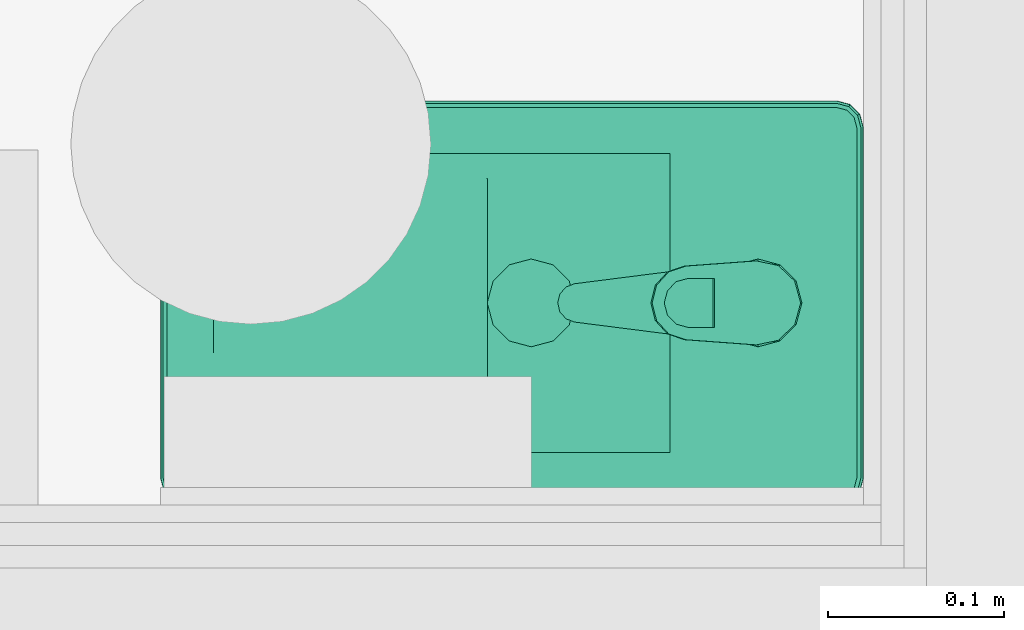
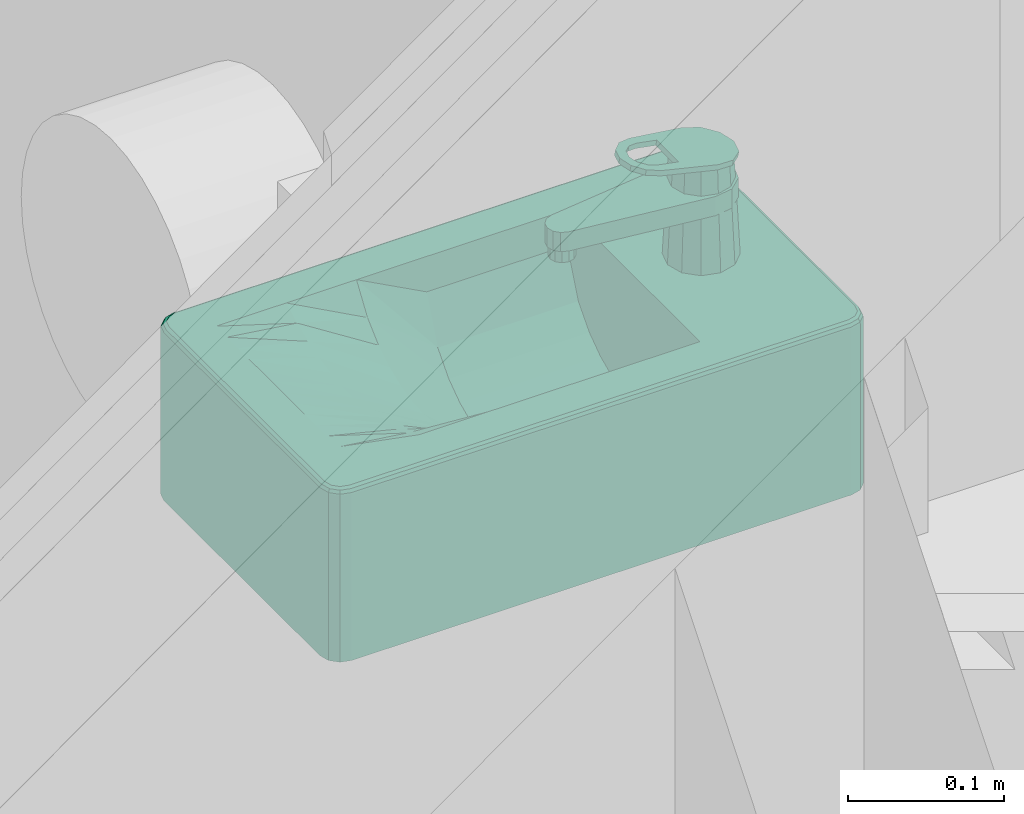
# One storey, part 252 of 301: 1 flow terminal.
"""IFC2X3 building model written with IfcOpenShell, lengths in millimetres."""

from ifc_helpers import new_model, entity, si_unit, converted_unit, derived_unit, money_unit, direction, frame, origin_with_axes, place, context, subcontext, project, spatial, open_shell, faceted_brep, surface_model, source, transform, mapped, type_object, element, save


model = new_model("IFC2X3")

# Units and contexts
model_context = context("Model", 3, precision=0.01, world=origin_with_axes(), true_north=direction((0.0, 1.0)))
body_context = subcontext(model_context, "Body", "Model", "MODEL_VIEW")
ifc_project = project(units=[si_unit("LENGTHUNIT", "METRE", prefix="MILLI"), si_unit("AREAUNIT", "SQUARE_METRE"), si_unit("VOLUMEUNIT", "CUBIC_METRE"), converted_unit("PLANEANGLEUNIT", "DEGREE", entity("IfcPlaneAngleMeasure", 0.0174532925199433), si_unit("PLANEANGLEUNIT", "RADIAN"), dimensions=[0, 0, 0, 0, 0, 0, 0]), money_unit("EUR"), converted_unit("TIMEUNIT", "Year", entity("IfcTimeMeasure", 31557600.0), si_unit("TIMEUNIT", "SECOND"), dimensions=[0, 0, 1, 0, 0, 0, 0]), si_unit("MASSUNIT", "GRAM", prefix="KILO"), si_unit("THERMODYNAMICTEMPERATUREUNIT", "DEGREE_CELSIUS"), si_unit("LUMINOUSINTENSITYUNIT", "LUMEN"), si_unit("ENERGYUNIT", "JOULE", prefix="MEGA"), derived_unit("THERMALCONDUCTANCEUNIT", [(si_unit("POWERUNIT", "WATT"), 1), (si_unit("LENGTHUNIT", "METRE"), -1), (si_unit("THERMODYNAMICTEMPERATUREUNIT", "KELVIN"), -1)]), derived_unit("SPECIFICHEATCAPACITYUNIT", [(si_unit("ENERGYUNIT", "JOULE"), 1), (si_unit("MASSUNIT", "GRAM", prefix="KILO"), -1), (si_unit("THERMODYNAMICTEMPERATUREUNIT", "KELVIN"), -1)]), derived_unit("MASSDENSITYUNIT", [(si_unit("MASSUNIT", "GRAM", prefix="KILO"), 1), (si_unit("VOLUMEUNIT", "CUBIC_METRE"), -1)])], contexts=[model_context])

# Site, building, storey
site_placement = place(None, frame((0.0, 0.0, 8650.0), z_axis=(0.0, 0.0, 1.0), x_axis=(1.0, 0.0, 0.0)))
site = spatial("IfcSite", under=ifc_project, at=site_placement, Name="43301:001:0844", CompositionType="ELEMENT")
building_placement = place(site_placement, origin_with_axes())
building = spatial("IfcBuilding", under=site, at=building_placement, Name="Kuressaare Ametikooli tuulikute mehaanikute õppekorpus", CompositionType="ELEMENT")
storey_placement = place(building_placement, origin_with_axes())
storey = spatial("IfcBuildingStorey", under=building, at=storey_placement, Name="1.korrus", CompositionType="ELEMENT", Elevation=0.0)

# Flow terminal
sanitary_terminal_type = type_object("IfcSanitaryTerminalType", Name="Basin 27", PredefinedType="NOTDEFINED")
shared_shape = source(origin_with_axes(), body_context, "Body", "SurfaceModel", [
    faceted_brep([(100.0, -400.0, 865.0), (-100.0, -400.0, 865.0), (-107.5, -397.9903810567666, 865.0), (-112.9903810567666, -392.5, 865.0), (-115.0, -385.0, 865.0), (-115.0, -14.99999999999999, 865.0), (-112.9903810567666, -7.500000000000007, 865.0), (-107.5, -2.009618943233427, 865.0), (-100.0, 0.0, 865.0), (100.0, 0.0, 865.0), (107.5, -2.009618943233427, 865.0), (112.9903810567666, -7.500000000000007, 865.0), (115.0, -14.99999999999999, 865.0), (115.0, -385.0, 865.0), (112.9903810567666, -392.5, 865.0), (107.5, -397.9903810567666, 865.0), (-85.0, -370.0, 865.0), (85.0, -370.0, 865.0), (85.0, -110.0, 865.0), (-85.0, -110.0, 865.0), (100.0000003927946, -400.0000003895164, 995.0), (-99.99999979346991, -400.0000003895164, 995.0), (-107.5000000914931, -397.9903813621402, 995.0), (-112.9903813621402, -392.5000000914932, 995.0), (-115.0000003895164, -384.99999979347, 995.0), (-115.0000003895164, -14.99999968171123, 995.0), (-112.9903813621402, -7.500000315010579, 995.0), (-107.5000000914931, -2.009619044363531, 995.0), (-99.99999979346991, -1.698735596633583e-08, 995.0), (100.0000003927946, -1.698735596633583e-08, 995.0), (107.4999997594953, -2.009619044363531, 995.0), (112.9903810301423, -7.500000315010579, 995.0), (115.0000000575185, -14.99999968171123, 995.0), (115.0000000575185, -384.99999979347, 995.0), (112.9903810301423, -392.5000000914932, 995.0), (107.4999997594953, -397.9903813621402, 995.0), (-85.0, -370.0, 999.9999996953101), (85.0, -370.0, 999.9999996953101), (85.0, -110.0, 999.9999996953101), (-85.0, -110.0, 999.9999996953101), (99.97757064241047, -399.8296295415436, 996.2940952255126), (-99.97757004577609, -399.8296295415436, 996.2940952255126), (-107.4118096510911, -397.8376310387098, 996.2940952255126), (-112.8376310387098, -392.4118096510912, 996.2940952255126), (-114.8296295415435, -384.9775700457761, 996.2940952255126), (-114.8296295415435, -15.02242943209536, 996.2940952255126), (-112.837631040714, -7.588190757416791, 996.2940952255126), (-107.4118096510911, -2.162369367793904, 996.2940952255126), (-99.97757004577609, -0.1703708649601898, 996.2940952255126), (99.97757064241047, -0.1703708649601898, 996.2940952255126), (107.4118093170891, -2.162369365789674, 996.2940952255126), (112.8376307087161, -7.588190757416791, 996.2940952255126), (114.8296292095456, -15.02242943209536, 996.2940952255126), (114.8296292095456, -384.9775700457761, 996.2940952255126), (112.8376307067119, -392.4118096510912, 996.2940952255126), (107.4118093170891, -397.8376310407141, 996.2940952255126), (-99.34173767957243, -4.999997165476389, 999.9999996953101), (-104.9118111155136, -6.492493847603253, 999.9999996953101), (-108.5075066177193, -10.08818934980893, 999.9999996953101), (-110.0000032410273, -15.65826187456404, 999.9999996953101), (-110.0000032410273, -384.3417376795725, 999.9999996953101), (-108.5075065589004, -389.9118111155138, 999.9999996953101), (-104.9118111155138, -393.5075065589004, 999.9999996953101), (-99.34173767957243, -395.0000032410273, 999.9999996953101), (99.34173819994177, -395.0000032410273, 999.9999996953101), (104.9118107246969, -393.5075066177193, 999.9999996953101), (108.5075062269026, -389.9118111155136, 999.9999996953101), (110.0000029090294, -384.3417376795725, 999.9999996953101), (110.0000029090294, -15.65826187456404, 999.9999996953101), (108.5075062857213, -10.08818934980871, 999.9999996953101), (104.9118107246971, -6.492493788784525, 999.9999996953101), (99.34173819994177, -4.999997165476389, 999.9999996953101), (99.80719978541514, -398.5355345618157, 998.5355339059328), (-99.80719920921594, -398.5355345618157, 998.5355339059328), (-106.7419367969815, -396.6773772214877, 998.5355339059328), (-111.6773772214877, -391.7419367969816, 998.5355339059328), (-113.5355345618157, -384.807199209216, 998.5355339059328), (-113.5355345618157, -15.1928002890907, 998.5355339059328), (-111.6773772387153, -8.258063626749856, 998.5355339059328), (-106.7419367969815, -3.322623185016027, 998.5355339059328), (-99.80719920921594, -1.464465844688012, 998.5355339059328), (99.80719978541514, -1.464465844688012, 998.5355339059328), (106.741936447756, -3.322623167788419, 998.5355339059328), (111.6773769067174, -8.258063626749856, 998.5355339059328), (113.5355342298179, -15.1928002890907, 998.5355339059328), (113.5355342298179, -384.807199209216, 998.5355339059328), (111.6773768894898, -391.7419367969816, 998.5355339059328), (106.741936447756, -396.6773772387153, 998.5355339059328), (-105.5816828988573, -5.332241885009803, 999.8296291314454), (-99.51210824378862, -3.70590425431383, 999.8296291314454), (-109.6677585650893, -9.41831755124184, 999.8296291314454), (-111.2940961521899, -15.48789128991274, 999.8296291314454), (-111.2940961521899, -384.5121082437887, 999.8296291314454), (-109.6677585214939, -390.5816828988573, 999.8296291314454), (-105.5816828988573, -394.667758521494, 999.8296291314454), (-99.51210824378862, -396.2940961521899, 999.8296291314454), (99.5121087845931, -396.2940961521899, 999.8296291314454), (105.581682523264, -394.6677585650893, 999.8296291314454), (109.667758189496, -390.5816828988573, 999.8296291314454), (111.294095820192, -384.5121082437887, 999.8296291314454), (111.294095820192, -15.48789128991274, 999.8296291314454), (109.6677582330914, -9.41831755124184, 999.8296291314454), (105.581682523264, -5.332241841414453, 999.8296291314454), (99.5121087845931, -3.70590425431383, 999.8296291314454)], [[[0, 1, 2, 3, 4, 5, 6, 7, 8, 9, 10, 11, 12, 13, 14, 15], [16, 17, 18, 19]], [[0, 20, 21, 1]], [[1, 21, 22, 2]], [[2, 22, 23, 3]], [[3, 23, 24, 4]], [[4, 24, 25, 5]], [[5, 25, 26, 6]], [[6, 26, 27, 7]], [[7, 27, 28, 8]], [[8, 28, 29, 9]], [[9, 29, 30, 10]], [[10, 30, 31, 11]], [[11, 31, 32, 12]], [[12, 32, 33, 13]], [[13, 33, 34, 14]], [[14, 34, 35, 15]], [[15, 35, 20, 0]], [[36, 37, 17, 16]], [[37, 38, 18, 17]], [[38, 39, 19, 18]], [[39, 36, 16, 19]], [[20, 40, 41, 21]], [[21, 41, 42, 22]], [[22, 42, 43, 23]], [[23, 43, 44, 24]], [[24, 44, 45, 25]], [[25, 45, 46, 26]], [[26, 46, 47, 27]], [[27, 47, 48, 28]], [[28, 48, 49, 29]], [[29, 49, 50, 30]], [[30, 50, 51, 31]], [[31, 51, 52, 32]], [[32, 52, 53, 33]], [[33, 53, 54, 34]], [[34, 54, 55, 35]], [[35, 55, 40, 20]], [[56, 57, 58, 59, 60, 61, 62, 63, 64, 65, 66, 67, 68, 69, 70, 71], [36, 39, 38, 37]], [[40, 72, 73, 41]], [[41, 73, 74, 42]], [[42, 74, 75, 43]], [[43, 75, 76, 44]], [[44, 76, 77, 45]], [[45, 77, 78, 46]], [[46, 78, 79, 47]], [[47, 79, 80, 48]], [[48, 80, 81, 49]], [[49, 81, 82, 50]], [[50, 82, 83, 51]], [[51, 83, 84, 52]], [[52, 84, 85, 53]], [[53, 85, 86, 54]], [[54, 86, 87, 55]], [[55, 87, 72, 40]], [[88, 57, 56, 89]], [[90, 58, 57, 88]], [[91, 59, 58, 90]], [[92, 60, 59, 91]], [[93, 61, 60, 92]], [[94, 62, 61, 93]], [[95, 63, 62, 94]], [[96, 64, 63, 95]], [[97, 65, 64, 96]], [[98, 66, 65, 97]], [[99, 67, 66, 98]], [[100, 68, 67, 99]], [[101, 69, 68, 100]], [[102, 70, 69, 101]], [[103, 71, 70, 102]], [[89, 56, 71, 103]], [[72, 96, 95, 73]], [[73, 95, 94, 74]], [[74, 94, 93, 75]], [[75, 93, 92, 76]], [[76, 92, 91, 77]], [[77, 91, 90, 78]], [[78, 90, 88, 79]], [[79, 88, 89, 80]], [[80, 89, 103, 81]], [[81, 103, 102, 82]], [[82, 102, 101, 83]], [[83, 101, 100, 84]], [[84, 100, 99, 85]], [[85, 99, 98, 86]], [[86, 98, 97, 87]], [[87, 97, 96, 72]]]),
    faceted_brep([(-85.0, -370.0, 865.0), (-85.0, -110.0, 865.0), (85.0, -110.0, 865.0), (85.0, -370.0, 865.0), (12.49999999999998, -210.733635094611, 865.0), (21.65063509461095, -201.583, 865.0), (25.0, -189.083, 865.0), (21.65063509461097, -176.583, 865.0), (12.50000000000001, -167.4323649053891, 865.0), (0.0, -164.083, 865.0), (-12.49999999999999, -167.4323649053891, 865.0), (-21.65063509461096, -176.583, 865.0), (-25.0, -189.083, 865.0), (-21.65063509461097, -201.583, 865.0), (-12.50000000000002, -210.733635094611, 865.0), (0.0, -214.083, 865.0), (-85.0, -266.0, 1000.0), (-85.0, -214.0, 972.25), (-85.0, -162.0, 972.25), (-85.0, -110.0, 972.25), (-85.0, -370.0, 1000.0), (-85.0, -318.0, 1000.0), (42.49999999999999, -110.0, 911.2166184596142), (56.66666666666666, -110.0, 921.2681999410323), (70.83333333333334, -110.0, 937.1336281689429), (85.0, -110.0, 972.2499999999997), (-70.83333333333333, -110.0, 937.133628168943), (-56.66666666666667, -110.0, 921.2681999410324), (-42.5, -110.0, 911.2166184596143), (-28.33333333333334, -110.0, 904.7939613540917), (-14.16666666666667, -110.0, 901.173124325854), (0.0, -110.0, 900.0), (14.16666666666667, -110.0, 901.173124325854), (28.33333333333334, -110.0, 904.7939613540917), (85.0, -214.0, 972.2499999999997), (85.0, -266.0, 999.9999999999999), (85.0, -318.0, 1000.0), (85.0, -370.0, 1000.0), (85.0, -162.0, 972.2499999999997), (-42.5, -370.0, 1000.0), (-56.66666666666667, -370.0, 1000.0), (-70.83333333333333, -370.0, 1000.0), (70.83333333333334, -370.0, 1000.0), (56.66666666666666, -370.0, 1000.0), (42.49999999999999, -370.0, 1000.0), (28.33333333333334, -370.0, 1000.0), (14.16666666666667, -370.0, 1000.0), (0.0, -370.0, 1000.0), (-14.16666666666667, -370.0, 1000.0), (-28.33333333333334, -370.0, 1000.0), (14.16666666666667, -209.0669684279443, 901.173124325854), (21.65063509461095, -201.583, 903.0859405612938), (12.49999999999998, -210.733635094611, 901.0351096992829), (25.0, -189.083, 903.9419997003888), (21.65063509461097, -176.583, 903.0859405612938), (14.16666666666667, -169.0990315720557, 901.173124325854), (12.50000000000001, -167.4323649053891, 901.035109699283), (0.0, -164.083, 900.0), (-12.49999999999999, -167.4323649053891, 901.035109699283), (-14.16666666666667, -169.0990315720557, 901.173124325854), (-21.65063509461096, -176.583, 903.0859405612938), (-25.0, -189.083, 903.9419997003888), (-21.65063509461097, -201.583, 903.0859405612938), (-14.16666666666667, -209.0669684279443, 901.173124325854), (-12.50000000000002, -210.733635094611, 901.035109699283), (-0.02107381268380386, -214.0773532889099, 900.0716455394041), (0.0, -214.083, 900.0751753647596), (-0.3097602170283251, -214.0, 900.0256508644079), (0.3097602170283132, -214.0, 900.0256508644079), (-70.83333333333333, -214.0, 937.133628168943), (-70.83333333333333, -162.0, 937.133628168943), (-70.83333333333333, -318.0, 992.8049756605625), (-70.83333333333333, -266.0, 978.92400992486), (56.66666666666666, -162.0, 921.2681999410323), (42.49999999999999, -162.0, 911.2166184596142), (70.83333333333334, -162.0, 937.1336281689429), (-56.66666666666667, -162.0, 921.2681999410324), (-42.5, -162.0, 911.2166184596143), (-28.33333333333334, -162.0, 904.7939613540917), (-14.16666666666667, -162.0, 901.173124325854), (0.0, -162.0, 900.0), (14.16666666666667, -162.0, 901.173124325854), (28.33333333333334, -162.0, 904.7939613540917), (70.83333333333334, -266.0, 978.92400992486), (70.83333333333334, -318.0, 992.8049756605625), (70.83333333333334, -214.0, 937.1336281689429), (-42.5, -318.0, 982.8921917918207), (-56.66666666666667, -318.0, 987.1546857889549), (56.66666666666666, -318.0, 987.1546857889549), (42.49999999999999, -318.0, 982.8921917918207), (28.33333333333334, -318.0, 979.9130117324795), (14.16666666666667, -318.0, 978.1503189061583), (0.0, -318.0, 977.5667630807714), (-14.16666666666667, -318.0, 978.1503189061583), (-28.33333333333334, -318.0, 979.9130117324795), (14.16666666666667, -214.0, 901.173124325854), (28.33333333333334, -214.0, 904.7939613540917), (-28.33333333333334, -214.0, 904.7939613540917), (-14.16666666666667, -214.0, 901.173124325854), (-14.16666666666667, -266.0, 948.1630206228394), (0.0, -266.0, 947.0978188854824), (-56.66666666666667, -214.0, 921.2681999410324), (56.66666666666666, -214.0, 921.2681999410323), (42.49999999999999, -214.0, 911.2166184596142), (-42.5, -214.0, 911.2166184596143), (14.16666666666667, -266.0, 948.1630206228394), (-28.33333333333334, -266.0, 951.4339022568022), (-56.66666666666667, -266.0, 965.9137620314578), (42.49999999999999, -266.0, 957.1657026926), (56.66666666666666, -266.0, 965.9137620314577), (-42.5, -266.0, 957.1657026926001), (28.33333333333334, -266.0, 951.4339022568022)], [[[0, 1, 2, 3], [4, 5, 6, 7, 8, 9, 10, 11, 12, 13, 14, 15]], [[16, 17, 18, 19, 1, 0, 20, 21]], [[22, 23, 24, 25, 2, 1, 19, 26, 27, 28, 29, 30, 31, 32, 33]], [[34, 35, 36, 37, 3, 2, 25, 38]], [[39, 40, 41, 20, 0, 3, 37, 42, 43, 44, 45, 46, 47, 48, 49]], [[50, 51, 5, 4, 52]], [[51, 53, 6, 5]], [[53, 54, 7, 6]], [[54, 55, 56, 8, 7]], [[56, 57, 9, 8]], [[57, 58, 10, 9]], [[58, 59, 60, 11, 10]], [[60, 61, 12, 11]], [[61, 62, 13, 12]], [[63, 64, 14, 13, 62]], [[65, 66, 15, 14, 64, 67]], [[68, 52, 4, 15, 66]], [[16, 69, 17]], [[69, 70, 18, 17]], [[70, 26, 19, 18]], [[20, 71, 21]], [[21, 72, 16]], [[73, 23, 22, 74]], [[75, 24, 23, 73]], [[38, 25, 24, 75]], [[76, 27, 26, 70]], [[77, 28, 27, 76]], [[78, 29, 28, 77]], [[79, 30, 29, 78]], [[80, 31, 30, 79]], [[81, 32, 31, 80]], [[82, 33, 32, 81]], [[74, 22, 33, 82]], [[83, 35, 34]], [[84, 36, 35]], [[42, 37, 36]], [[34, 38, 75, 85]], [[40, 39, 86]], [[41, 40, 87]], [[20, 41, 71]], [[43, 42, 84]], [[44, 43, 88]], [[45, 44, 89]], [[46, 45, 90]], [[47, 46, 91]], [[48, 47, 92]], [[49, 48, 93]], [[39, 49, 94]], [[55, 54, 53, 51, 50, 95, 96, 82, 81]], [[52, 68, 95, 50]], [[56, 55, 81, 80, 57]], [[58, 57, 80, 79, 59]], [[60, 59, 79, 78, 97, 98, 63, 62, 61]], [[64, 63, 98, 67]], [[66, 65, 99, 100]], [[65, 67, 98, 99]], [[68, 66, 100, 95]], [[16, 72, 69]], [[101, 76, 70, 69]], [[21, 71, 72]], [[102, 73, 74, 103]], [[85, 75, 73, 102]], [[104, 77, 76, 101]], [[97, 78, 77, 104]], [[103, 74, 82, 96]], [[84, 35, 83]], [[83, 34, 85]], [[42, 36, 84]], [[39, 94, 86]], [[40, 86, 87]], [[41, 87, 71]], [[43, 84, 88]], [[44, 88, 89]], [[45, 89, 90]], [[46, 90, 91]], [[47, 91, 92]], [[48, 92, 93]], [[49, 93, 94]], [[105, 96, 95]], [[106, 98, 97]], [[93, 100, 99]], [[106, 99, 98]], [[100, 105, 95]], [[72, 101, 69]], [[71, 107, 72]], [[108, 102, 103]], [[109, 85, 102]], [[107, 104, 101]], [[110, 97, 104]], [[111, 103, 96]], [[88, 84, 83]], [[109, 83, 85]], [[86, 94, 106]], [[87, 86, 110]], [[71, 87, 107]], [[89, 88, 109]], [[90, 89, 108]], [[91, 90, 111]], [[92, 91, 105]], [[93, 92, 100]], [[94, 93, 99]], [[105, 111, 96]], [[110, 106, 97]], [[94, 99, 106]], [[92, 105, 100]], [[72, 107, 101]], [[108, 109, 102]], [[111, 108, 103]], [[107, 110, 104]], [[88, 83, 109]], [[86, 106, 110]], [[87, 110, 107]], [[89, 109, 108]], [[90, 108, 111]], [[91, 111, 105]]]),
    faceted_brep([(21.65063509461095, -201.583, 900.0), (12.49999999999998, -210.733635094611, 900.0), (0.0, -214.083, 900.0), (-12.50000000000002, -210.733635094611, 900.0), (-21.65063509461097, -201.583, 900.0), (-25.0, -189.083, 900.0), (-21.65063509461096, -176.583, 900.0), (-12.49999999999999, -167.4323649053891, 900.0), (0.0, -164.083, 900.0), (12.50000000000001, -167.4323649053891, 900.0), (21.65063509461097, -176.583, 900.0), (25.0, -189.083, 900.0), (21.65063509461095, -201.583, 905.0), (12.49999999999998, -210.733635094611, 905.0), (0.0, -214.083, 905.0), (-12.50000000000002, -210.733635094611, 905.0), (-21.65063509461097, -201.583, 905.0), (-25.0, -189.083, 905.0), (-21.65063509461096, -176.583, 905.0), (-12.49999999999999, -167.4323649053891, 905.0), (0.0, -164.083, 905.0), (12.50000000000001, -167.4323649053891, 905.0), (21.65063509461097, -176.583, 905.0), (25.0, -189.083, 905.0)], [[[0, 1, 2, 3, 4, 5, 6, 7, 8, 9, 10, 11]], [[1, 0, 12, 13]], [[2, 1, 13, 14]], [[3, 2, 14, 15]], [[4, 3, 15, 16]], [[5, 4, 16, 17]], [[6, 5, 17, 18]], [[7, 6, 18, 19]], [[8, 7, 19, 20]], [[9, 8, 20, 21]], [[10, 9, 21, 22]], [[11, 10, 22, 23]], [[0, 11, 23, 12]], [[12, 23, 22, 21, 20, 19, 18, 17, 16, 15, 14, 13]]]),
    surface_model("IfcShellBasedSurfaceModel", [(0.0, -189.083, 907.0), (0.0, -176.46109443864, 906.4975737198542), (-6.310952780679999, -178.1521091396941, 906.4975737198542), (6.310952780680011, -178.1521091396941, 906.4975737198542), (0.0, -164.083, 905.0), (-12.5, -167.4323649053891, 905.0), (-10.93089086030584, -182.77204721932, 906.4975737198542), (10.93089086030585, -182.77204721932, 906.4975737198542), (12.50000000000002, -167.4323649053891, 905.0), (-21.65063509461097, -176.583, 905.0), (-12.62190556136, -189.083, 906.4975737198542), (12.62190556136, -189.083, 906.4975737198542), (21.65063509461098, -176.583, 905.0), (-25.0, -189.083, 905.0), (-10.93089086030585, -195.39395278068, 906.4975737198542), (10.93089086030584, -195.39395278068, 906.4975737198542), (25.0, -189.083, 905.0), (-21.65063509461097, -201.583, 905.0), (-6.310952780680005, -200.0138908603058, 906.4975737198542), (6.310952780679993, -200.0138908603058, 906.4975737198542), (21.65063509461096, -201.583, 905.0), (-12.50000000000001, -210.733635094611, 905.0), (0.0, -201.70490556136, 906.4975737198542), (12.49999999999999, -210.733635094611, 905.0), (0.0, -214.083, 905.0)], [open_shell([[[0, 1, 2]], [[0, 3, 1]], [[2, 1, 4, 5]], [[0, 2, 6]], [[0, 7, 3]], [[1, 3, 8, 4]], [[6, 2, 5, 9]], [[0, 6, 10]], [[0, 11, 7]], [[3, 7, 12, 8]], [[10, 6, 9, 13]], [[0, 10, 14]], [[0, 15, 11]], [[7, 11, 16, 12]], [[14, 10, 13, 17]], [[0, 14, 18]], [[0, 19, 15]], [[11, 15, 20, 16]], [[18, 14, 17, 21]], [[0, 18, 22]], [[0, 22, 19]], [[15, 19, 23, 20]], [[22, 18, 21, 24]], [[19, 22, 24, 23]]])]),
    faceted_brep([(12.50000000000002, -38.34936490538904, 1000.0), (0.0, -34.99999999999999, 1000.0), (0.0, -38.79807692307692, 1075.961538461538), (10.587322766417, -41.66221905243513, 1076.507089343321), (21.65063509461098, -47.50000000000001, 1000.0), (25.0, -60.00000000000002, 1000.0), (21.65063509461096, -72.50000000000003, 1000.0), (12.49999999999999, -81.65063509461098, 1000.0), (0.0, -84.99999999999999, 1000.0), (-12.50000000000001, -81.65063509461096, 1000.0), (-21.65063509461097, -72.5, 1000.0), (-25.0, -59.99999999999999, 1000.0), (-21.65063509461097, -47.49999999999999, 1000.0), (-12.5, -38.34936490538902, 1000.0), (-10.58732276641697, -41.66221905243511, 1076.507089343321), (-18.27355038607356, -49.44976076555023, 1077.99043062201), (-21.0, -59.99999999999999, 1080.0), (-18.10034137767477, -70.45023696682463, 1081.990521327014), (-10.41410590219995, -78.0377605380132, 1083.435763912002), (0.0, -80.80188679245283, 1083.962264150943), (10.41410590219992, -78.03776053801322, 1083.435763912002), (18.10034137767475, -70.45023696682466, 1081.990521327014), (21.0, -60.00000000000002, 1080.0), (18.27355038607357, -49.44976076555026, 1077.99043062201)], [[[0, 1, 2, 3]], [[0, 4, 5, 6, 7, 8, 9, 10, 11, 12, 13, 1]], [[1, 13, 14, 2]], [[3, 2, 14, 15, 16, 17, 18, 19, 20, 21, 22, 23]], [[4, 0, 3, 23]], [[5, 4, 23, 22]], [[6, 5, 22, 21]], [[7, 6, 21, 20]], [[8, 7, 20, 19]], [[9, 8, 19, 18]], [[10, 9, 18, 17]], [[11, 10, 17, 16]], [[12, 11, 16, 15]], [[13, 12, 15, 14]]]),
    faceted_brep([(9.000000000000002, -163.0, 1035.0), (7.794228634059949, -158.5, 1035.0), (7.794228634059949, -158.5, 1045.0), (9.000000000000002, -163.0, 1045.0), (7.794228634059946, -167.5, 1035.0), (4.499999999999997, -170.79422863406, 1035.0), (0.0, -172.0, 1035.0), (-4.500000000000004, -170.79422863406, 1035.0), (-7.794228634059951, -167.5, 1035.0), (-9.000000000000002, -163.0, 1035.0), (-7.794228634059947, -158.5, 1035.0), (-4.499999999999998, -155.2057713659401, 1035.0), (0.0, -154.0, 1035.0), (4.500000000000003, -155.2057713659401, 1035.0), (4.500000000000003, -155.2057713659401, 1045.0), (0.0, -154.0, 1045.0), (-4.499999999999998, -155.2057713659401, 1045.0), (-7.794228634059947, -158.5, 1045.0), (-9.000000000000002, -163.0, 1045.0), (-7.794228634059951, -167.5, 1045.0), (-4.500000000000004, -170.79422863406, 1045.0), (0.0, -172.0, 1045.0), (4.499999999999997, -170.79422863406, 1045.0), (7.794228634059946, -167.5, 1045.0)], [[[0, 1, 2, 3]], [[0, 4, 5, 6, 7, 8, 9, 10, 11, 12, 13, 1]], [[1, 13, 14, 2]], [[3, 2, 14, 15, 16, 17, 18, 19, 20, 21, 22, 23]], [[4, 0, 3, 23]], [[5, 4, 23, 22]], [[6, 5, 22, 21]], [[7, 6, 21, 20]], [[8, 7, 20, 19]], [[9, 8, 19, 18]], [[10, 9, 18, 17]], [[11, 10, 17, 16]], [[12, 11, 16, 15]], [[13, 12, 15, 14]]]),
    faceted_brep([(-12.87171762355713, -39.74369617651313, 1060.0), (-21.72780530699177, -49.80679463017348, 1060.0), (-23.8054, -63.04989999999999, 1060.0), (-10.9119908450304, -164.3883719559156, 1060.0), (-9.02887546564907, -169.2831941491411, 1060.0), (-5.093324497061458, -172.7497264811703, 1060.0), (3.626798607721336e-05, -173.9999600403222, 1060.0), (5.093388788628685, -172.7496928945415, 1060.0), (9.02891689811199, -169.2831346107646, 1060.0), (10.912, -164.3883, 1060.0), (23.80539974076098, -63.04990202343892, 1060.0), (21.72780617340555, -49.80679647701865, 1060.0), (12.87171934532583, -39.74369727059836, 1060.0), (1.019988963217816e-06, -36.00002168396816, 1060.0), (11.00000000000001, -40.94744111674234, 1060.0), (19.05255888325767, -48.99999999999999, 1060.0), (22.00000000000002, -60.0, 1060.0), (19.05255888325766, -71.00000000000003, 1060.0), (10.99999999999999, -79.05255888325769, 1060.0), (0.0, -82.0, 1060.0), (-11.00000000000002, -79.05255888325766, 1060.0), (-19.05255888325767, -70.99999999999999, 1060.0), (-22.00000000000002, -59.99999999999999, 1060.0), (-19.05255888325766, -48.99999999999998, 1060.0), (-11.0, -40.94744111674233, 1060.0), (0.0, -37.99999999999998, 1060.0), (-21.72780530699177, -49.80679463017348, 1045.0), (-12.87171762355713, -39.74369617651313, 1045.0), (-23.8054, -63.04989999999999, 1045.0), (-10.9119908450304, -164.3883719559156, 1045.0), (-9.02887546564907, -169.2831941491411, 1045.0), (-5.093324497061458, -172.7497264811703, 1045.0), (3.626798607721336e-05, -173.9999600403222, 1045.0), (5.093388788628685, -172.7496928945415, 1045.0), (9.02891689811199, -169.2831346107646, 1045.0), (10.912, -164.3883, 1045.0), (23.80539974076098, -63.04990202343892, 1045.0), (21.72780617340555, -49.80679647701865, 1045.0), (12.87171934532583, -39.74369727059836, 1045.0), (1.019988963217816e-06, -36.00002168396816, 1045.0), (11.37500000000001, -40.297922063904, 1045.0), (19.70207793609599, -48.62499999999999, 1045.0), (22.75000000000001, -60.0, 1045.0), (19.70207793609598, -71.37500000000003, 1045.0), (11.37499999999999, -79.702077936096, 1045.0), (0.0, -82.75, 1045.0), (-11.37500000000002, -79.70207793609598, 1045.0), (-19.70207793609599, -71.375, 1045.0), (-22.75000000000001, -59.99999999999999, 1045.0), (-19.70207793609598, -48.62499999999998, 1045.0), (-11.375, -40.297922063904, 1045.0), (0.0, -37.24999999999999, 1045.0)], [[[0, 1, 2, 3, 4, 5, 6, 7, 8, 9, 10, 11, 12, 13], [14, 15, 16, 17, 18, 19, 20, 21, 22, 23, 24, 25]], [[26, 1, 0, 27]], [[28, 2, 1, 26]], [[29, 3, 2, 28]], [[30, 4, 3, 29]], [[31, 5, 4, 30]], [[32, 6, 5, 31]], [[33, 7, 6, 32]], [[34, 8, 7, 33]], [[35, 9, 8, 34]], [[36, 10, 9, 35]], [[37, 11, 10, 36]], [[38, 12, 11, 37]], [[39, 13, 12, 38]], [[27, 0, 13, 39]], [[40, 41, 15, 14]], [[41, 42, 16, 15]], [[42, 43, 17, 16]], [[43, 44, 18, 17]], [[44, 45, 19, 18]], [[20, 19, 45, 46]], [[21, 20, 46, 47]], [[22, 21, 47, 48]], [[23, 22, 48, 49]], [[24, 23, 49, 50]], [[50, 51, 25, 24]], [[51, 40, 14, 25]], [[32, 31, 30, 29, 28, 26, 27, 39, 38, 37, 36, 35, 34, 33], [44, 43, 42, 41, 40, 51, 50, 49, 48, 47, 46, 45]]]),
    faceted_brep([(23.893, -61.69256934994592, 1080.322394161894), (21.29642141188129, -49.22528119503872, 1077.947672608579), (21.29642141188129, -48.47683276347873, 1081.877026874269), (23.893, -60.94412091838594, 1084.251748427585), (20.94593649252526, -101.8367022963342, 1087.968895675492), (17.66313911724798, -111.514366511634, 1089.81226028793), (10.06143529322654, -118.4637460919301, 1091.135951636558), (-0.0004426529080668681, -120.9856119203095, 1091.61630703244), (-10.06221236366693, -118.4633294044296, 1091.13587226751), (-17.66361794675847, -111.5136350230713, 1089.812120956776), (-20.946, -101.8358348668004, 1087.968730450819), (-23.89302047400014, -61.69229042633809, 1080.322341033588), (-21.29629106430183, -49.22503258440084, 1077.947625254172), (-12.4716815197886, -39.90880255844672, 1076.173105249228), (0.0001423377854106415, -36.46803549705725, 1075.517721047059), (12.47192457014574, -39.90894815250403, 1076.173132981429), (14.0, -85.54080272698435, 1084.86491480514), (-14.0, -85.54080272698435, 1084.86491480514), (-14.0, -100.3564329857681, 1087.686939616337), (-12.12435565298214, -107.2328029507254, 1088.996724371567), (-7.000000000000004, -112.2666551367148, 1089.955553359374), (0.0, -114.1091729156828, 1090.306509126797), (6.999999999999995, -112.2666551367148, 1089.955553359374), (12.12435565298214, -107.2328029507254, 1088.996724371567), (14.0, -100.3564329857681, 1087.686939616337), (12.47192457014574, -39.16049972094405, 1080.102487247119), (0.0001423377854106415, -35.71958706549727, 1079.447075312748), (-12.4716815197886, -39.16035412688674, 1080.102459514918), (-21.29629106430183, -48.47658415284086, 1081.876979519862), (-23.89302047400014, -60.9438419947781, 1084.251695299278), (-20.946, -101.0873864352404, 1091.898084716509), (-17.66361794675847, -110.7651865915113, 1093.741475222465), (-10.06221236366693, -117.7148809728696, 1095.0652265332), (-0.0004426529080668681, -120.2371634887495, 1095.54566129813), (10.06143529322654, -117.7152976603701, 1095.065305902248), (17.66313911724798, -110.765918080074, 1093.74161455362), (20.94593649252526, -101.0882538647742, 1091.898249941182), (14.0, -84.79235429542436, 1088.79426907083), (14.0, -99.60798455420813, 1091.616293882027), (12.12435565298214, -106.4843545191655, 1092.926078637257), (6.999999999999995, -111.5182067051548, 1093.884907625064), (0.0, -113.3607244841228, 1094.235863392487), (-7.000000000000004, -111.5182067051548, 1093.884907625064), (-12.12435565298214, -106.4843545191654, 1092.926078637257), (-14.0, -99.60798455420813, 1091.616293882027), (-14.0, -84.79235429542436, 1088.79426907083)], [[[0, 1, 2, 3]], [[0, 4, 5, 6, 7, 8, 9, 10, 11, 12, 13, 14, 15, 1], [16, 17, 18, 19, 20, 21, 22, 23, 24]], [[1, 15, 25, 2]], [[3, 2, 25, 26, 27, 28, 29, 30, 31, 32, 33, 34, 35, 36], [37, 38, 39, 40, 41, 42, 43, 44, 45]], [[4, 0, 3, 36]], [[5, 4, 36, 35]], [[6, 5, 35, 34]], [[7, 6, 34, 33]], [[8, 7, 33, 32]], [[9, 8, 32, 31]], [[10, 9, 31, 30]], [[11, 10, 30, 29]], [[12, 11, 29, 28]], [[13, 12, 28, 27]], [[14, 13, 27, 26]], [[15, 14, 26, 25]], [[17, 16, 37, 45]], [[18, 17, 45, 44]], [[19, 18, 44, 43]], [[20, 19, 43, 42]], [[21, 20, 42, 41]], [[22, 21, 41, 40]], [[23, 22, 40, 39]], [[24, 23, 39, 38]], [[16, 24, 38, 37]]]),
])
flow_terminal_placement = place(storey_placement, frame((101373.6537842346, 24191.06964326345, 0.0), z_axis=(0.0, 0.0, 1.0), x_axis=(1.043895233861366e-05, -0.9999999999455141, 0.0)))
element("IfcFlowTerminal", 1, at=flow_terminal_placement, inside=storey, type_object=sanitary_terminal_type, Name="V2", context=body_context, shape_type="MappedRepresentation", body=[
    mapped(shared_shape, transform((0.0, 0.0, 0.0))),
])

save(model, "model.ifc")
